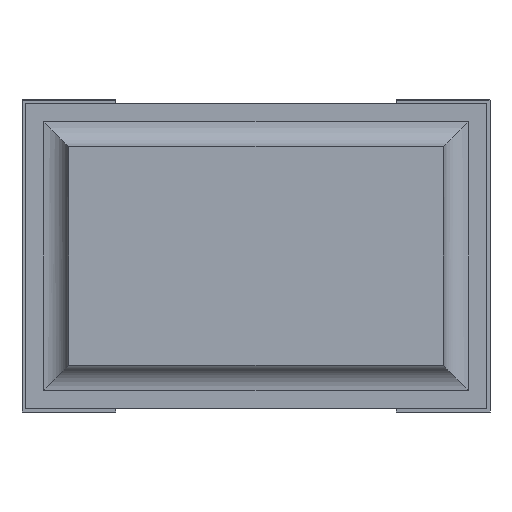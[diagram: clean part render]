
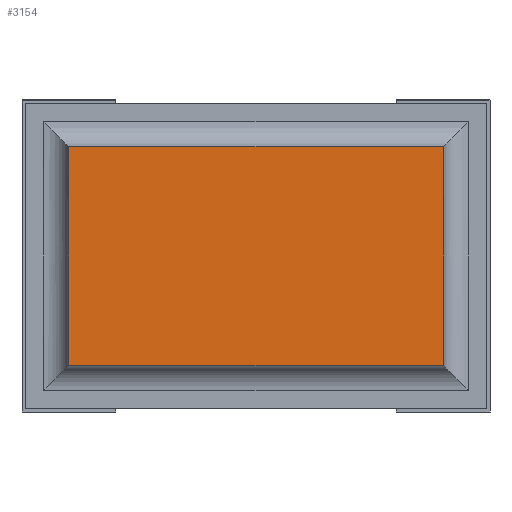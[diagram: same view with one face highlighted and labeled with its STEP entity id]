
A CAD part, front view. The second image highlights one B-rep face of the part: STEP entity #3154.
In plain terms, the highlighted planar face has unit normal (0, -1, 0).
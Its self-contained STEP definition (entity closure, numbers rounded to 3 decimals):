
#47=PLANE('',#3382);
#204=FACE_OUTER_BOUND('',#400,.T.);
#400=EDGE_LOOP('',(#2219,#2220,#2221,#2222));
#607=LINE('',#4514,#1019);
#610=LINE('',#4520,#1022);
#611=LINE('',#4523,#1023);
#612=LINE('',#4524,#1024);
#1019=VECTOR('',#3627,10.);
#1022=VECTOR('',#3632,10.);
#1023=VECTOR('',#3635,10.);
#1024=VECTOR('',#3636,10.);
#1471=VERTEX_POINT('',#4510);
#1472=VERTEX_POINT('',#4512);
#1474=VERTEX_POINT('',#4518);
#1475=VERTEX_POINT('',#4522);
#1761=EDGE_CURVE('',#1471,#1472,#607,.T.);
#1764=EDGE_CURVE('',#1474,#1472,#610,.T.);
#1765=EDGE_CURVE('',#1475,#1474,#611,.T.);
#1766=EDGE_CURVE('',#1471,#1475,#612,.T.);
#2219=ORIENTED_EDGE('',*,*,#1764,.F.);
#2220=ORIENTED_EDGE('',*,*,#1765,.F.);
#2221=ORIENTED_EDGE('',*,*,#1766,.F.);
#2222=ORIENTED_EDGE('',*,*,#1761,.T.);
#3154=ADVANCED_FACE('',(#204),#47,.T.);
#3382=AXIS2_PLACEMENT_3D('',#4521,#3633,#3634);
#3627=DIRECTION('',(0.,0.,-1.));
#3632=DIRECTION('',(-1.,0.,0.));
#3633=DIRECTION('center_axis',(0.,-1.,0.));
#3634=DIRECTION('ref_axis',(0.,0.,-1.));
#3635=DIRECTION('',(0.,0.,-1.));
#3636=DIRECTION('',(1.,0.,0.));
#4510=CARTESIAN_POINT('',(0.075,0.,0.425));
#4512=CARTESIAN_POINT('',(0.075,0.,0.075));
#4514=CARTESIAN_POINT('',(0.075,0.,0.425));
#4518=CARTESIAN_POINT('',(0.675,0.,0.075));
#4520=CARTESIAN_POINT('',(0.675,0.,0.075));
#4521=CARTESIAN_POINT('Origin',(0.676,0.,0.25));
#4522=CARTESIAN_POINT('',(0.675,0.,0.425));
#4523=CARTESIAN_POINT('',(0.675,0.,0.425));
#4524=CARTESIAN_POINT('',(0.075,0.,0.425));
